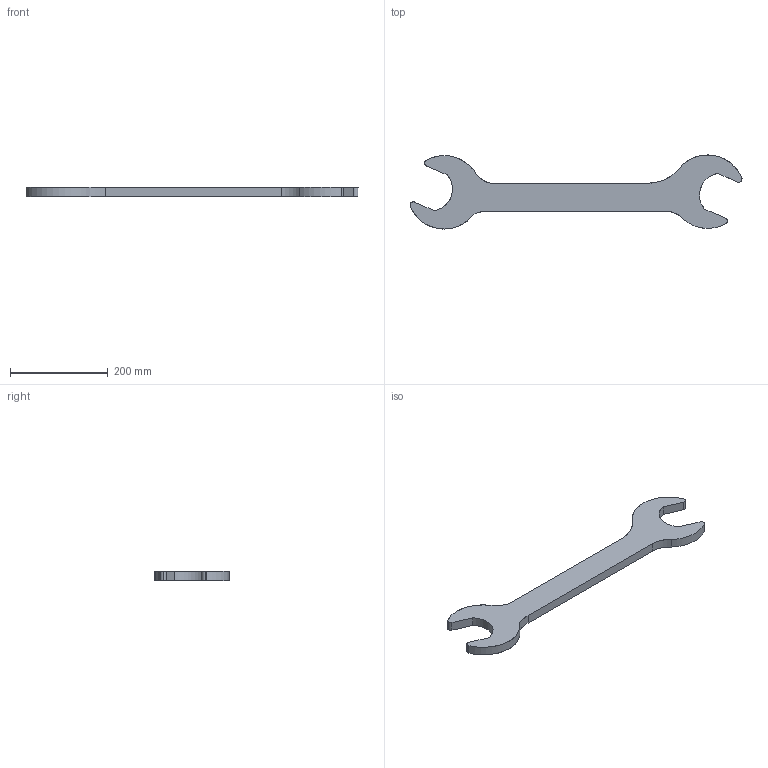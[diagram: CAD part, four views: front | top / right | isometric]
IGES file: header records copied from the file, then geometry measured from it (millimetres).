
Start section: SolidWorks IGES file using analytic representation for surfaces
Global section: file name: C:\Users\CADCIM\Desktop\c01d02.IGS; native system: SolidWorks 2010; preprocessor: SolidWorks 2010; author: CADCIM; date: 100315.150420; units: inch
Bounding box: 680.37 x 151.8 x 19.05 mm (x, y, z)
Surface area: 126491.9 mm2 (no closed solid volume)
Topology: 0 solids, 0 shells, 25 faces, 428 edges, 428 vertices
Faces by surface type: revolution 17, bspline 8
